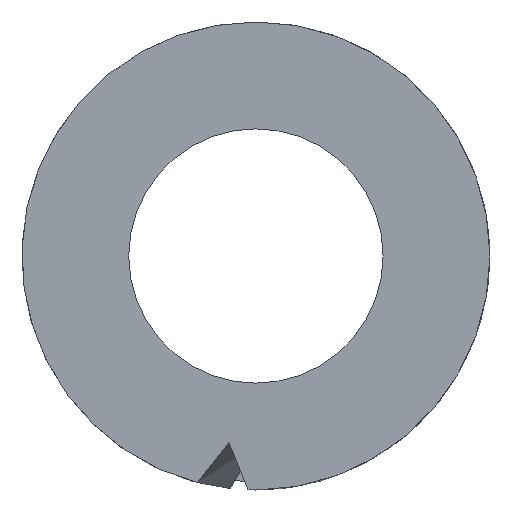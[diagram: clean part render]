
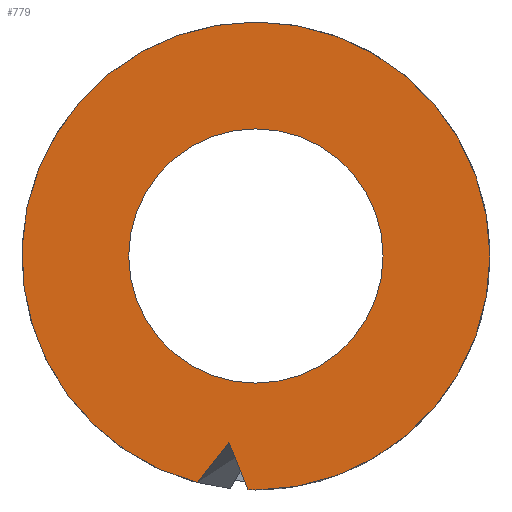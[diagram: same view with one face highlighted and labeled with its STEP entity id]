
A CAD part, left-side view. The second image highlights one B-rep face of the part: STEP entity #779.
In plain terms, the highlighted planar face has unit normal (-1, 0, 0).
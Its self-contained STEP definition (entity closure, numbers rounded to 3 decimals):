
#10 = CARTESIAN_POINT ( 'NONE',  ( -5.7, 0., -2.3 ) ) ;
#21 = ORIENTED_EDGE ( 'NONE', *, *, #265, .T. ) ;
#51 = DIRECTION ( 'NONE',  ( 0., 0., 1. ) ) ;
#94 = DIRECTION ( 'NONE',  ( 1., 0., 0. ) ) ;
#97 = EDGE_LOOP ( 'NONE', ( #342, #1071, #814, #622, #738 ) ) ;
#99 = AXIS2_PLACEMENT_3D ( 'NONE', #1047, #575, #1034 ) ;
#128 = CARTESIAN_POINT ( 'NONE',  ( -5.7, 0.078, -2.299 ) ) ;
#132 = FACE_OUTER_BOUND ( 'NONE', #97, .T. ) ;
#148 = PLANE ( 'NONE',  #572 ) ;
#154 = FACE_BOUND ( 'NONE', #185, .T. ) ;
#170 = VERTEX_POINT ( 'NONE', #10 ) ;
#172 = CIRCLE ( 'NONE', #191, 1.25 ) ;
#183 = EDGE_CURVE ( 'NONE', #375, #170, #1090, .T. ) ;
#185 = EDGE_LOOP ( 'NONE', ( #21, #900 ) ) ;
#186 = VERTEX_POINT ( 'NONE', #805 ) ;
#191 = AXIS2_PLACEMENT_3D ( 'NONE', #823, #758, #474 ) ;
#212 = CARTESIAN_POINT ( 'NONE',  ( -5.7, 0., -1.25 ) ) ;
#218 = CIRCLE ( 'NONE', #99, 2.3 ) ;
#256 = CARTESIAN_POINT ( 'NONE',  ( -5.7, 0.265, -1.831 ) ) ;
#265 = EDGE_CURVE ( 'NONE', #638, #368, #618, .T. ) ;
#293 = CARTESIAN_POINT ( 'NONE',  ( -5.7, 0.078, -2.299 ) ) ;
#329 = CARTESIAN_POINT ( 'NONE',  ( -5.7, 0.576, -2.227 ) ) ;
#342 = ORIENTED_EDGE ( 'NONE', *, *, #799, .T. ) ;
#368 = VERTEX_POINT ( 'NONE', #810 ) ;
#369 = VERTEX_POINT ( 'NONE', #560 ) ;
#375 = VERTEX_POINT ( 'NONE', #462 ) ;
#439 = DIRECTION ( 'NONE',  ( 1., 0., 0. ) ) ;
#458 = VERTEX_POINT ( 'NONE', #128 ) ;
#462 = CARTESIAN_POINT ( 'NONE',  ( -5.7, 0., 2.3 ) ) ;
#466 =( BOUNDED_CURVE ( )  B_SPLINE_CURVE ( 1, ( #256, #293 ),
 .UNSPECIFIED., .F., .T. ) 
 B_SPLINE_CURVE_WITH_KNOTS ( ( 2, 2 ),
 ( 0., 0.001 ),
 .UNSPECIFIED. ) 
 CURVE ( )  GEOMETRIC_REPRESENTATION_ITEM ( )  RATIONAL_B_SPLINE_CURVE ( ( 0.997, 0.997 ) ) 
 REPRESENTATION_ITEM ( '' )  );
#474 = DIRECTION ( 'NONE',  ( 0., 1., 0. ) ) ;
#486 = AXIS2_PLACEMENT_3D ( 'NONE', #974, #439, #1066 ) ;
#560 = CARTESIAN_POINT ( 'NONE',  ( -5.7, 0.265, -1.831 ) ) ;
#567 = DIRECTION ( 'NONE',  ( 1., 0., 0. ) ) ;
#572 = AXIS2_PLACEMENT_3D ( 'NONE', #588, #1131, #51 ) ;
#575 = DIRECTION ( 'NONE',  ( 1., 0., 0. ) ) ;
#588 = CARTESIAN_POINT ( 'NONE',  ( -5.7, 2.3, 0. ) ) ;
#618 = CIRCLE ( 'NONE', #943, 1.25 ) ;
#622 = ORIENTED_EDGE ( 'NONE', *, *, #183, .F. ) ;
#638 = VERTEX_POINT ( 'NONE', #212 ) ;
#671 = EDGE_CURVE ( 'NONE', #186, #375, #218, .T. ) ;
#738 = ORIENTED_EDGE ( 'NONE', *, *, #671, .F. ) ;
#758 = DIRECTION ( 'NONE',  ( 1., 0., 0. ) ) ;
#779 = ADVANCED_FACE ( 'NONE', ( #132, #154 ), #148, .T. ) ;
#781 =( BOUNDED_CURVE ( )  B_SPLINE_CURVE ( 1, ( #329, #845 ),
 .UNSPECIFIED., .F., .T. ) 
 B_SPLINE_CURVE_WITH_KNOTS ( ( 2, 2 ),
 ( 0.002, 0.003 ),
 .UNSPECIFIED. ) 
 CURVE ( )  GEOMETRIC_REPRESENTATION_ITEM ( )  RATIONAL_B_SPLINE_CURVE ( ( 0.997, 0.997 ) ) 
 REPRESENTATION_ITEM ( '' )  );
#799 = EDGE_CURVE ( 'NONE', #186, #369, #781, .T. ) ;
#805 = CARTESIAN_POINT ( 'NONE',  ( -5.7, 0.576, -2.227 ) ) ;
#810 = CARTESIAN_POINT ( 'NONE',  ( -5.7, 0., 1.25 ) ) ;
#814 = ORIENTED_EDGE ( 'NONE', *, *, #992, .F. ) ;
#823 = CARTESIAN_POINT ( 'NONE',  ( -5.7, 0., 0. ) ) ;
#824 = AXIS2_PLACEMENT_3D ( 'NONE', #898, #94, #878 ) ;
#839 = DIRECTION ( 'NONE',  ( 0., 1., 0. ) ) ;
#842 = CIRCLE ( 'NONE', #486, 2.3 ) ;
#845 = CARTESIAN_POINT ( 'NONE',  ( -5.7, 0.265, -1.831 ) ) ;
#878 = DIRECTION ( 'NONE',  ( 0., 0., -1. ) ) ;
#898 = CARTESIAN_POINT ( 'NONE',  ( -5.7, 0., 0. ) ) ;
#900 = ORIENTED_EDGE ( 'NONE', *, *, #1074, .T. ) ;
#943 = AXIS2_PLACEMENT_3D ( 'NONE', #1013, #567, #839 ) ;
#956 = EDGE_CURVE ( 'NONE', #369, #458, #466, .T. ) ;
#974 = CARTESIAN_POINT ( 'NONE',  ( -5.7, 0., 0. ) ) ;
#992 = EDGE_CURVE ( 'NONE', #170, #458, #842, .T. ) ;
#1013 = CARTESIAN_POINT ( 'NONE',  ( -5.7, 0., 0. ) ) ;
#1034 = DIRECTION ( 'NONE',  ( 0., 0., -1. ) ) ;
#1047 = CARTESIAN_POINT ( 'NONE',  ( -5.7, 0., 0. ) ) ;
#1066 = DIRECTION ( 'NONE',  ( 0., 0., -1. ) ) ;
#1071 = ORIENTED_EDGE ( 'NONE', *, *, #956, .T. ) ;
#1074 = EDGE_CURVE ( 'NONE', #368, #638, #172, .T. ) ;
#1090 = CIRCLE ( 'NONE', #824, 2.3 ) ;
#1131 = DIRECTION ( 'NONE',  ( -1., 0., 0. ) ) ;
